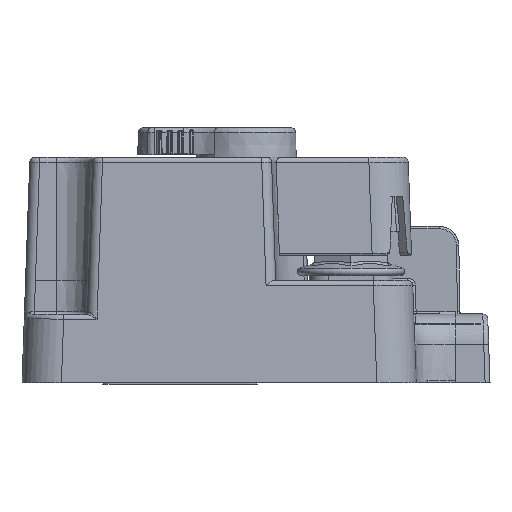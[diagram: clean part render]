
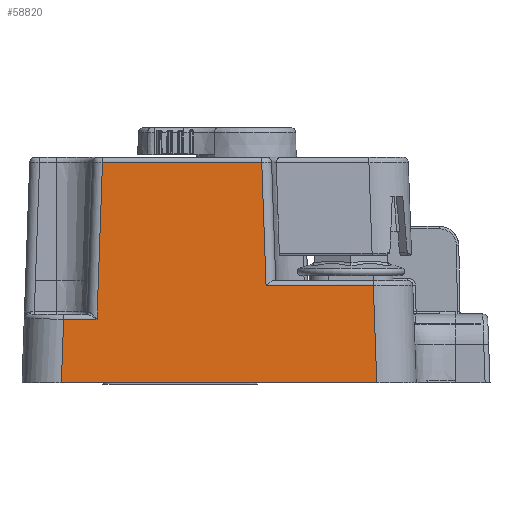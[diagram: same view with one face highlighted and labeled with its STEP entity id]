
A CAD part, left-side view. The second image highlights one B-rep face of the part: STEP entity #58820.
In plain terms, the highlighted planar face has unit normal (-0.999, 0, 0.035).
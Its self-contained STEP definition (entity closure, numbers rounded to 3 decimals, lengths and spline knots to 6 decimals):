
#4928=LINE('',#85579,#9044);
#5190=LINE('',#87013,#9306);
#5207=LINE('',#87083,#9323);
#5208=LINE('',#87085,#9324);
#5209=LINE('',#87087,#9325);
#5210=LINE('',#87089,#9326);
#5211=LINE('',#87091,#9327);
#5212=LINE('',#87093,#9328);
#9044=VECTOR('',#68980,1.);
#9306=VECTOR('',#69842,1.);
#9323=VECTOR('',#69899,1.);
#9324=VECTOR('',#69900,1.);
#9325=VECTOR('',#69901,1.);
#9326=VECTOR('',#69902,1.);
#9327=VECTOR('',#69903,1.);
#9328=VECTOR('',#69904,1.);
#14042=ORIENTED_EDGE('',*,*,#32661,.T.);
#14043=ORIENTED_EDGE('',*,*,#32662,.T.);
#14044=ORIENTED_EDGE('',*,*,#32663,.T.);
#14045=ORIENTED_EDGE('',*,*,#32664,.T.);
#14046=ORIENTED_EDGE('',*,*,#32665,.T.);
#14047=ORIENTED_EDGE('',*,*,#32666,.T.);
#14048=ORIENTED_EDGE('',*,*,#32627,.T.);
#14049=ORIENTED_EDGE('',*,*,#32047,.F.);
#32047=EDGE_CURVE('',#41397,#41398,#4928,.T.);
#32627=EDGE_CURVE('',#41900,#41398,#5190,.T.);
#32661=EDGE_CURVE('',#41397,#41933,#5207,.T.);
#32662=EDGE_CURVE('',#41933,#41934,#5208,.T.);
#32663=EDGE_CURVE('',#41934,#41935,#5209,.T.);
#32664=EDGE_CURVE('',#41935,#41936,#5210,.T.);
#32665=EDGE_CURVE('',#41936,#41937,#5211,.T.);
#32666=EDGE_CURVE('',#41937,#41900,#5212,.T.);
#41397=VERTEX_POINT('',#85578);
#41398=VERTEX_POINT('',#85580);
#41900=VERTEX_POINT('',#87014);
#41933=VERTEX_POINT('',#87084);
#41934=VERTEX_POINT('',#87086);
#41935=VERTEX_POINT('',#87088);
#41936=VERTEX_POINT('',#87090);
#41937=VERTEX_POINT('',#87092);
#49918=EDGE_LOOP('',(#14042,#14043,#14044,#14045,#14046,#14047,#14048,#14049));
#53702=FACE_BOUND('',#49918,.T.);
#57424=PLANE('',#62864);
#58820=ADVANCED_FACE('',(#53702),#57424,.T.);
#62864=AXIS2_PLACEMENT_3D('',#87082,#69897,#69898);
#68980=DIRECTION('',(0.,1.,0.));
#69842=DIRECTION('',(-0.035,0.035,-0.999));
#69897=DIRECTION('',(-0.999,0.,0.035));
#69898=DIRECTION('',(0.035,0.,0.999));
#69899=DIRECTION('',(0.035,0.035,0.999));
#69900=DIRECTION('',(0.,1.,0.));
#69901=DIRECTION('',(0.035,0.035,0.999));
#69902=DIRECTION('',(0.,1.,0.));
#69903=DIRECTION('',(-0.035,0.035,-0.999));
#69904=DIRECTION('',(0.,1.,0.));
#85578=CARTESIAN_POINT('',(-0.076804,-0.018587,-0.019473));
#85579=CARTESIAN_POINT('',(-0.076804,-0.026582,-0.019473));
#85580=CARTESIAN_POINT('',(-0.076804,0.045423,-0.019473));
#87013=CARTESIAN_POINT('',(-0.076716,0.045335,-0.016964));
#87014=CARTESIAN_POINT('',(-0.076351,0.04497,-0.006498));
#87082=CARTESIAN_POINT('',(-0.076804,-0.026582,-0.019473));
#87083=CARTESIAN_POINT('',(-0.076087,-0.01787,0.001049));
#87084=CARTESIAN_POINT('',(-0.076111,-0.017894,0.000362));
#87085=CARTESIAN_POINT('',(-0.076111,-0.026582,0.000362));
#87086=CARTESIAN_POINT('',(-0.076111,0.003883,0.000362));
#87087=CARTESIAN_POINT('',(-0.07684,0.003154,-0.02051));
#87088=CARTESIAN_POINT('',(-0.075238,0.004756,0.025362));
#87089=CARTESIAN_POINT('',(-0.075238,-0.026582,0.025362));
#87090=CARTESIAN_POINT('',(-0.075238,0.03708,0.025362));
#87091=CARTESIAN_POINT('',(-0.07608,0.037922,0.001258));
#87092=CARTESIAN_POINT('',(-0.076351,0.038193,-0.006498));
#87093=CARTESIAN_POINT('',(-0.076351,-0.026582,-0.006498));
